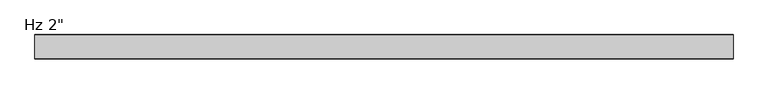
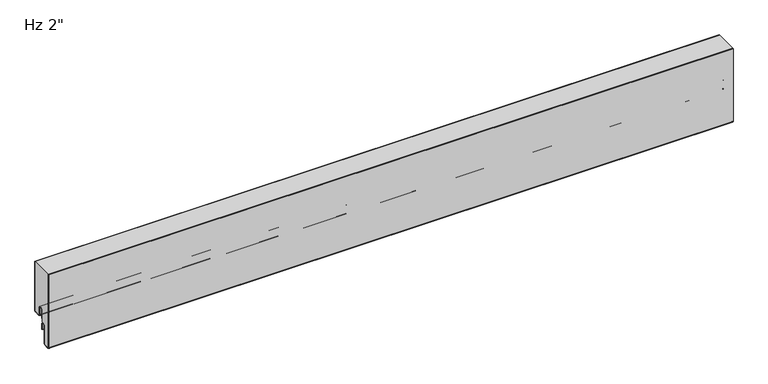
"""IFC4 building model written with IfcOpenShell, lengths in millimetres: plate geometry."""

import ifcopenshell
import ifcopenshell.guid

model = None  # the IFC model being written
_history = None  # IfcOwnerHistory: only IFC2X3 demands one
_inside = {}  # id of a spatial element -> (the spatial element, [elements in it])
_under = {}  # id of a project, library or spatial element -> (it, [spatial elements below it])
_declared = {}  # id of a project -> (the project, [libraries it declares])
_typed = {}  # id of a type object -> (the type object, [elements of that type])
_made_of = {}  # id of a material, layer set ... -> (it, [elements and type objects made of it])


def new_model(schema):
    """Start an empty IFC model of exactly this schema.

    Asked for "IFC4X3", IfcOpenShell would pick the latest addendum, in which some entities
    have other attributes; the version numbers below select the first issue.
    IFC2X3 requires an IfcOwnerHistory on every rooted entity: one is made here for all.
    """
    global model, _history
    if schema == "IFC4X3":
        model = ifcopenshell.file(schema_version=(4, 3, 0, 0))
    else:
        model = ifcopenshell.file(schema=schema)
    _inside.clear()
    _under.clear()
    _declared.clear()
    _typed.clear()
    _made_of.clear()
    _history = None
    if model.schema == "IFC2X3":
        org = make("IfcOrganization", Name="unknown")
        user = make(
            "IfcPersonAndOrganization",
            ThePerson=make("IfcPerson", FamilyName="unknown"),
            TheOrganization=org,
        )
        app = make(
            "IfcApplication",
            ApplicationDeveloper=org,
            Version="unknown",
            ApplicationFullName="unknown",
            ApplicationIdentifier="unknown",
        )
        _history = make(
            "IfcOwnerHistory",
            OwningUser=user,
            OwningApplication=app,
            ChangeAction="ADDED",
            CreationDate=0,
        )
    return model


def make(cls, **values):
    """One entity of the class cls with the attributes given. An attribute that is None is left unset."""
    return model.create_entity(
        cls, **{name: value for name, value in values.items() if value is not None}
    )


def rooted(cls, **values):
    """An entity with a GlobalId (a new one), such as an element, a storey or a relation."""
    return make(cls, GlobalId=ifcopenshell.guid.new(), OwnerHistory=_history, **values)


def si_unit(unit_type, name, prefix=None):
    """IfcSIUnit, for example si_unit("LENGTHUNIT", "METRE", prefix="MILLI")."""
    return make("IfcSIUnit", UnitType=unit_type, Prefix=prefix, Name=name)


def assignment(units):
    """IfcUnitAssignment: the units of a project."""
    return None if units is None else make("IfcUnitAssignment", Units=units)


def point(xyz):
    """IfcCartesianPoint."""
    return None if xyz is None else make("IfcCartesianPoint", Coordinates=xyz)


def direction(xyz):
    """IfcDirection."""
    return None if xyz is None else make("IfcDirection", DirectionRatios=xyz)


def frame(location, z_axis=None, x_axis=None):
    """IfcAxis2Placement3D, a coordinate frame: its origin and axes. An axis left out is left unset."""
    return make(
        "IfcAxis2Placement3D",
        Location=point(location),
        Axis=direction(z_axis),
        RefDirection=direction(x_axis),
    )


def frame_2d(location, x_axis=None):
    """IfcAxis2Placement2D, a coordinate frame in the plane: its origin and x axis."""
    return make(
        "IfcAxis2Placement2D", Location=point(location), RefDirection=direction(x_axis)
    )


def origin():
    """The frame at (0, 0, 0) with its axes left unset."""
    return frame((0.0, 0.0, 0.0))


def place(relative_to, where):
    """IfcLocalPlacement: puts the frame where relative to a parent placement (None: the world)."""
    return make(
        "IfcLocalPlacement", PlacementRelTo=relative_to, RelativePlacement=where
    )


def context(
    kind, dimensions, precision=None, world=None, true_north=None, identifier=None
):
    """IfcGeometricRepresentationContext, for example the 3D "Model" context."""
    return make(
        "IfcGeometricRepresentationContext",
        ContextIdentifier=identifier,
        ContextType=kind,
        CoordinateSpaceDimension=dimensions,
        Precision=precision,
        WorldCoordinateSystem=world,
        TrueNorth=true_north,
    )


def project(units=None, contexts=None):
    """IfcProject with its units and contexts."""
    return rooted(
        "IfcProject",
        Name="project",
        RepresentationContexts=contexts,
        UnitsInContext=assignment(units),
    )


def spatial(cls, under=None, at=None, **own):
    """A site, building, storey or space (cls), placed at a placement, below another one or the project."""
    s = rooted(cls, ObjectPlacement=at, **own)
    if under is not None:
        _under.setdefault(under.id(), (under, []))[1].append(s)
    return s


def polyline(points):
    """IfcPolyline through the points."""
    return make("IfcPolyline", Points=[point(p) for p in points])


def circle_curve(where, radius):
    """IfcCircle in the frame where."""
    return make("IfcCircle", Position=where, Radius=radius)


def trimmed(basis, trim1, trim2, sense, master):
    """IfcTrimmedCurve: the piece of a basis curve between two trims."""
    return make(
        "IfcTrimmedCurve",
        BasisCurve=basis,
        Trim1=trim1,
        Trim2=trim2,
        SenseAgreement=sense,
        MasterRepresentation=master,
    )


def segment(curve, same_sense, transition):
    """IfcCompositeCurveSegment."""
    return make(
        "IfcCompositeCurveSegment",
        Transition=transition,
        SameSense=same_sense,
        ParentCurve=curve,
    )


def composite_curve(segments, self_intersect=None):
    """IfcCompositeCurve: segments joined end to end."""
    return make("IfcCompositeCurve", Segments=segments, SelfIntersect=self_intersect)


def outline(outer, holes=None, kind="AREA"):
    """IfcArbitraryClosedProfileDef: a profile drawn as a closed curve; with holes, ...WithVoids."""
    if holes is None:
        return make("IfcArbitraryClosedProfileDef", ProfileType=kind, OuterCurve=outer)
    return make(
        "IfcArbitraryProfileDefWithVoids",
        ProfileType=kind,
        OuterCurve=outer,
        InnerCurves=holes,
    )


def extrude(swept, where, along, depth):
    """IfcExtrudedAreaSolid: the profile swept, set in the frame where, extruded along a direction by depth."""
    return make(
        "IfcExtrudedAreaSolid",
        SweptArea=swept,
        Position=where,
        ExtrudedDirection=direction(along),
        Depth=depth,
    )


def shape(context_of_items, identifier, shape_type, items):
    """IfcShapeRepresentation: the items that make up one representation, for example the "Body"."""
    return make(
        "IfcShapeRepresentation",
        ContextOfItems=context_of_items,
        RepresentationIdentifier=identifier,
        RepresentationType=shape_type,
        Items=items,
    )


def source(mapping_origin, context_of_items, identifier, shape_type, items):
    """IfcRepresentationMap: a shape defined once, which mapped items show again and again."""
    return make(
        "IfcRepresentationMap",
        MappingOrigin=mapping_origin,
        MappedRepresentation=shape(context_of_items, identifier, shape_type, items),
    )


def transform(
    local_origin,
    x_axis=None,
    y_axis=None,
    z_axis=None,
    scale=None,
    scale2=None,
    scale3=None,
    uniform=True,
):
    """IfcCartesianTransformationOperator3D, or its non-uniform kind. x_axis, y_axis, z_axis: its Axis1, 2, 3."""
    if uniform:
        return make(
            "IfcCartesianTransformationOperator3D",
            Axis1=direction(x_axis),
            Axis2=direction(y_axis),
            LocalOrigin=point(local_origin),
            Scale=scale,
            Axis3=direction(z_axis),
        )
    return make(
        "IfcCartesianTransformationOperator3DnonUniform",
        Axis1=direction(x_axis),
        Axis2=direction(y_axis),
        LocalOrigin=point(local_origin),
        Scale=scale,
        Axis3=direction(z_axis),
        Scale2=scale2,
        Scale3=scale3,
    )


def mapped(mapping_source, mapping_target):
    """IfcMappedItem: shows the shape of a source again, moved by a transform."""
    return make(
        "IfcMappedItem", MappingSource=mapping_source, MappingTarget=mapping_target
    )


def made_of(thing, what):
    """Note that an element or type object is made of a material, layer set ...; save() writes the relation."""
    if what is not None:
        _made_of.setdefault(what.id(), (what, []))[1].append(thing)
    return thing


def element(
    cls,
    number,
    at=None,
    inside=None,
    cuts=None,
    type_object=None,
    material=None,
    context=None,
    identifier="Body",
    shape_type=None,
    held_by="IfcProductDefinitionShape",
    body=None,
    shapes=None,
    **own,
):
    """One element of the class cls, such as IfcWall. Its Tag is "e" and its number.

    at: its placement. inside: the storey or other place that contains it. cuts: it is an
    opening in that element (IfcRelVoidsElement). A single representation is given by context,
    identifier, shape_type and body (its items); several are given by shapes. held_by: the class
    of the entity that holds the representations. save() writes the other relations.
    """
    e = rooted(cls, Tag="e%d" % number, ObjectPlacement=at, **own)
    if body is not None:
        shapes = [shape(context, identifier, shape_type, body)]
    if shapes is not None:
        e.Representation = make(held_by, Representations=shapes)
    if inside is not None:
        _inside.setdefault(inside.id(), (inside, []))[1].append(e)
    if cuts is not None:
        rooted(
            "IfcRelVoidsElement", RelatingBuildingElement=cuts, RelatedOpeningElement=e
        )
    if type_object is not None:
        _typed.setdefault(type_object.id(), (type_object, []))[1].append(e)
    return made_of(e, material)


def aggregate(whole, parts):
    """IfcRelAggregates: a whole, such as a stair, and the parts it consists of."""
    return rooted("IfcRelAggregates", RelatingObject=whole, RelatedObjects=parts)


def save(model, path):
    """Write the relations noted so far, then the file.

    IfcRelAggregates (storeys below a building ...), IfcRelContainedInSpatialStructure (elements
    in a storey), IfcRelDefinesByType, IfcRelAssociatesMaterial and IfcRelDeclares: one each for
    every whole, place, type object, material and project.
    """
    for whole, parts in _under.values():
        aggregate(whole, parts)
    for where, things in _inside.values():
        rooted(
            "IfcRelContainedInSpatialStructure",
            RelatedElements=things,
            RelatingStructure=where,
        )
    for kind, things in _typed.values():
        rooted("IfcRelDefinesByType", RelatedObjects=things, RelatingType=kind)
    for what, things in _made_of.values():
        rooted("IfcRelAssociatesMaterial", RelatedObjects=things, RelatingMaterial=what)
    for by, libraries in _declared.values():
        rooted("IfcRelDeclares", RelatingContext=by, RelatedDefinitions=libraries)
    model.write(path)


def plate_4092c8f2(model_context):
    return source(origin(), model_context, "Body", "SweptSolid", [
        extrude(outline(composite_curve([segment(polyline([(-49.8, -50.6719361), (-49.8, 114.0), (-1.0, 114.0), (-1.0, 3.175)]), True, "CONTINUOUS"), segment(trimmed(circle_curve(frame_2d((-2.38125, 3.175)), 1.38125), [point((-1.0, 3.175))], [point((-2.38125, 1.79375))], False, "CARTESIAN"), True, "CONTINUOUS"), segment(polyline([(-2.38125, 1.79375), (-15.08125, 1.79375)]), True, "CONTINUOUS"), segment(trimmed(circle_curve(frame_2d((-15.08125, 3.175)), 1.38125), [point((-15.08125, 1.79375))], [point((-16.4625, 3.175))], False, "CARTESIAN"), True, "CONTINUOUS"), segment(polyline([(-16.4625, 3.175), (-16.4625, 19.05)]), True, "CONTINUOUS"), segment(trimmed(circle_curve(frame_2d((-21.43125, 19.05)), 4.96875), [point((-16.4625, 19.05))], [point((-26.4, 19.05))], True, "CARTESIAN"), True, "CONTINUOUS"), segment(polyline([(-26.4, 19.05), (-26.4, -6.9375), (-30.95625, -6.9375)]), True, "CONTINUOUS"), segment(trimmed(circle_curve(frame_2d((-30.95625, -11.90625)), 4.96875), [point((-30.95625, -6.9375))], [point((-35.925, -11.90625))], True, "CARTESIAN"), True, "CONTINUOUS"), segment(polyline([(-35.925, -11.90625), (-35.925, -50.0895546)]), True, "CONTINUOUS"), segment(trimmed(circle_curve(frame_2d((-37.30625, -50.0895546)), 1.38125), [point((-35.925, -50.0895546))], [point((-37.233961, -51.4689117))], False, "CARTESIAN"), True, "CONTINUOUS"), segment(polyline([(-37.233961, -51.4689117), (-48.346461, -52.0512931)]), True, "CONTINUOUS"), segment(trimmed(circle_curve(frame_2d((-48.41875, -50.6719361)), 1.38125), [point((-48.346461, -52.0512931))], [point((-49.8, -50.6719361))], False, "CARTESIAN"), True, "CONTINUOUS")], self_intersect=False)), frame((-730.0, 0.0, 0.0), z_axis=(1.0, 0.0, 0.0), x_axis=(0.0, 1.0, 0.0)), (0.0, 0.0, 1.0), 1460.0),
        extrude(outline(composite_curve([segment(polyline([(-25.4, 0.79375), (-26.4, 0.79375), (-26.4, 19.05)]), True, "CONTINUOUS"), segment(trimmed(circle_curve(frame_2d((-21.43125, 19.05)), 4.96875), [point((-26.4, 19.05))], [point((-16.4625, 19.05))], False, "CARTESIAN"), True, "CONTINUOUS"), segment(polyline([(-16.4625, 19.05), (-16.4625, 3.175)]), True, "CONTINUOUS"), segment(trimmed(circle_curve(frame_2d((-15.08125, 3.175)), 1.38125), [point((-16.4625, 3.175))], [point((-15.08125, 1.79375))], True, "CARTESIAN"), True, "CONTINUOUS"), segment(polyline([(-15.08125, 1.79375), (-2.38125, 1.79375)]), True, "CONTINUOUS"), segment(trimmed(circle_curve(frame_2d((-2.38125, 3.175)), 1.38125), [point((-2.38125, 1.79375))], [point((-1.0, 3.175))], True, "CARTESIAN"), True, "CONTINUOUS"), segment(polyline([(-1.0, 3.175), (-1.0, 114.0), (0.0, 114.0), (0.0, 3.175)]), True, "CONTINUOUS"), segment(trimmed(circle_curve(frame_2d((-2.38125, 3.175)), 2.38125), [point((0.0, 3.175))], [point((-2.38125, 0.79375))], False, "CARTESIAN"), True, "CONTINUOUS"), segment(polyline([(-2.38125, 0.79375), (-15.08125, 0.79375)]), True, "CONTINUOUS"), segment(trimmed(circle_curve(frame_2d((-15.08125, 3.175)), 2.38125), [point((-15.08125, 0.79375))], [point((-17.4625, 3.175))], False, "CARTESIAN"), True, "CONTINUOUS"), segment(polyline([(-17.4625, 3.175), (-17.4625, 19.05)]), True, "CONTINUOUS"), segment(trimmed(circle_curve(frame_2d((-21.43125, 19.05)), 3.96875), [point((-17.4625, 19.05))], [point((-25.4, 19.05))], True, "CARTESIAN"), True, "CONTINUOUS"), segment(polyline([(-25.4, 19.05), (-25.4, 0.79375)]), True, "CONTINUOUS")], self_intersect=False)), frame((-730.0, 0.0, 0.0), z_axis=(1.0, 0.0, 0.0), x_axis=(0.0, 1.0, 0.0)), (0.0, 0.0, 1.0), 1460.0),
        extrude(outline(composite_curve([segment(trimmed(circle_curve(frame_2d((-26.19375, -23.2314549)), 0.79375), [point((-25.4, -23.2314549))], [point((-26.9875, -23.2314549))], False, "CARTESIAN"), True, "CONTINUOUS"), segment(polyline([(-26.9875, -23.2314549), (-26.9875, -11.9205174)]), True, "CONTINUOUS"), segment(trimmed(circle_curve(frame_2d((-30.95625, -11.9205174)), 3.96875), [point((-26.9875, -11.9205174))], [point((-34.925, -11.9205174))], True, "CARTESIAN"), True, "CONTINUOUS"), segment(polyline([(-34.925, -11.9205174), (-34.925, -50.1038221)]), True, "CONTINUOUS"), segment(trimmed(circle_curve(frame_2d((-37.30625, -50.1038221)), 2.38125), [point((-34.925, -50.1038221))], [point((-37.181625, -52.4818086))], False, "CARTESIAN"), True, "CONTINUOUS"), segment(polyline([(-37.181625, -52.4818086), (-48.294125, -53.0641901)]), True, "CONTINUOUS"), segment(trimmed(circle_curve(frame_2d((-48.41875, -50.6862035)), 2.38125), [point((-48.294125, -53.0641901))], [point((-50.8, -50.6862035))], False, "CARTESIAN"), True, "CONTINUOUS"), segment(polyline([(-50.8, -50.6862035), (-50.8, 114.0), (-49.8, 114.0), (-49.8, -50.6862035)]), True, "CONTINUOUS"), segment(trimmed(circle_curve(frame_2d((-48.41875, -50.6862035)), 1.38125), [point((-49.8, -50.6862035))], [point((-48.346461, -52.0655606))], True, "CARTESIAN"), True, "CONTINUOUS"), segment(polyline([(-48.346461, -52.0655606), (-37.233961, -51.4831791)]), True, "CONTINUOUS"), segment(trimmed(circle_curve(frame_2d((-37.30625, -50.1038221)), 1.38125), [point((-37.233961, -51.4831791))], [point((-35.925, -50.1038221))], True, "CARTESIAN"), True, "CONTINUOUS"), segment(polyline([(-35.925, -50.1038221), (-35.925, -11.9205174)]), True, "CONTINUOUS"), segment(trimmed(circle_curve(frame_2d((-30.95625, -11.9205174)), 4.96875), [point((-35.925, -11.9205174))], [point((-25.9875, -11.9205174))], False, "CARTESIAN"), True, "CONTINUOUS"), segment(polyline([(-25.9875, -11.9205174), (-26.19375, -13.5080174), (-25.4, -13.5080174), (-25.4, -23.2314549)]), True, "CONTINUOUS")], self_intersect=False)), frame((-730.0, 0.0, 0.0), z_axis=(1.0, 0.0, 0.0), x_axis=(0.0, 1.0, 0.0)), (0.0, 0.0, 1.0), 1460.0),
    ])


if __name__ == "__main__":
    model = new_model("IFC4")
    model_context = context("Model", 3, world=origin())
    ifc_project = project(units=[si_unit("LENGTHUNIT", "METRE", prefix="MILLI")], contexts=[model_context])
    site = spatial("IfcSite", under=ifc_project)
    building = spatial("IfcBuilding", under=site)
    placement = place(None, origin())
    plate_shape = plate_4092c8f2(model_context)
    element("IfcPlate", 1, ObjectType="KIP-30-DWTR-R19-CP-Hz-F : Hz 2\"", at=placement, inside=building, context=model_context, shape_type="MappedRepresentation", body=[
        mapped(plate_shape, transform((0.0, 0.0, 0.0), x_axis=(1.0, 0.0, 0.0), y_axis=(0.0, 1.0, 0.0), z_axis=(0.0, 0.0, 1.0))),
    ])
    save(model, "model.ifc")
